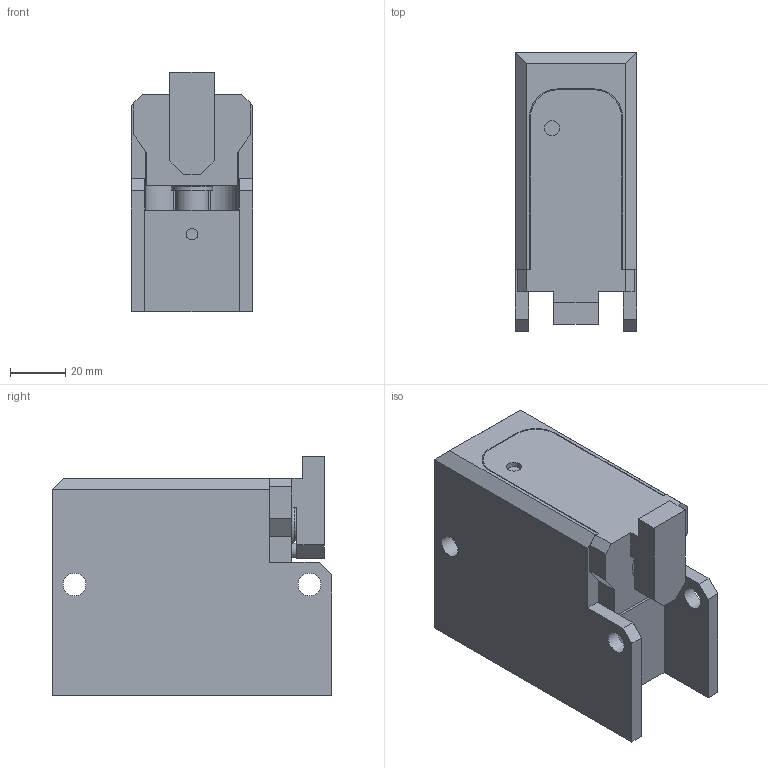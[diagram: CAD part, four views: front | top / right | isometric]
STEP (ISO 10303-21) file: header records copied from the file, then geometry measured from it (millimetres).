
FILE_DESCRIPTION(/* description */ ('Stopper SD-100-EW-08'),/* implementation_level */ '2;1');
FILE_NAME(/* name */ 'C:\Marketing\01_Versamove-SPU_STEP-Dateien-Homepage\Versamove plus\Stopper\K503021101_Stopper_SD-100-EW-08.stp',/* time_stamp */ '2017-02-01T13:48:02+01:00',/* author */ ('herbert.engels'),/* organization */ (''),/* preprocessor_version */ 'ST-DEVELOPER v15.6',/* originating_system */ 'Autodesk Inventor 2015',/* authorisation */ '');
FILE_SCHEMA (('CONFIG_CONTROL_DESIGN'));
Length unit declared in the file: millimetre
Products named in the file (1): T-ENG556646
Bounding box: 44 x 101 x 86.5 mm (x, y, z)
Volume: 267390.4 mm3; surface area: 56756.5 mm2
Topology: 1 solids, 2 shells, 96 faces, 241 edges, 161 vertices
Faces by surface type: plane 64, cylinder 29, torus 2, cone 1
Full cylindrical faces by diameter (mm): 2.5 x2, 4.2 x1, 5.03 x1, 5.1 x1, 5.5 x1, 8.2 x3, 12 x2, 12.03 x1, 12.05 x1, 14.5 x1, 25 x1, 39.9 x1, 40.05 x2, 42.55 x1
Entity records: 2902 total; most frequent: CARTESIAN_POINT 509, DIRECTION 461, ORIENTED_EDGE 418, EDGE_CURVE 209, AXIS2_PLACEMENT_3D 157, VERTEX_POINT 151, LINE 147, VECTOR 147
